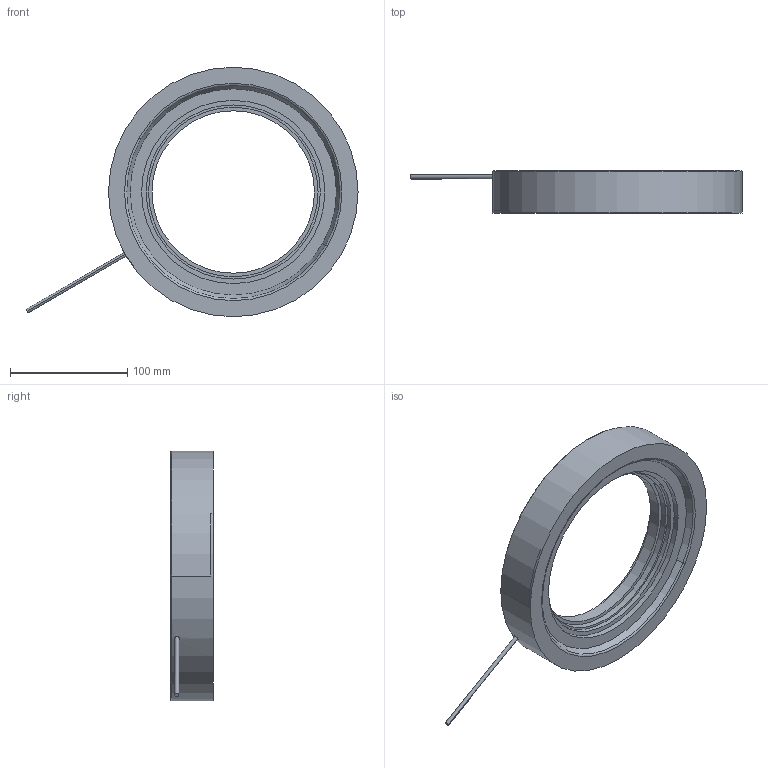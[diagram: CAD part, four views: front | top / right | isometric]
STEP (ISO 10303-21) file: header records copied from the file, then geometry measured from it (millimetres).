
FILE_DESCRIPTION((''),'2;1');
FILE_NAME('SG','2020-12-30T',('Administrator'),(''),'PRO/ENGINEER BY PARAMETRIC TECHNOLOGY CORPORATION, 2010100','PRO/ENGINEER BY PARAMETRIC TECHNOLOGY CORPORATION, 2010100','');
FILE_SCHEMA(('CONFIG_CONTROL_DESIGN'));
Length unit declared in the file: millimetre
Products named in the file (1): SG
Bounding box: 283.4 x 36 x 213 mm (x, y, z)
Volume: 564779.5 mm3; surface area: 135722.8 mm2
Topology: 1 solids, 8 shells, 122 faces, 288 edges, 190 vertices
Faces by surface type: cylinder 53, plane 38, cone 25, torus 4, bspline 2
Entity records: 4046 total; most frequent: CARTESIAN_POINT 1036, DIRECTION 690, ORIENTED_EDGE 552, AXIS2_PLACEMENT_3D 291, EDGE_CURVE 288, VERTEX_POINT 190, CIRCLE 170, EDGE_LOOP 150
